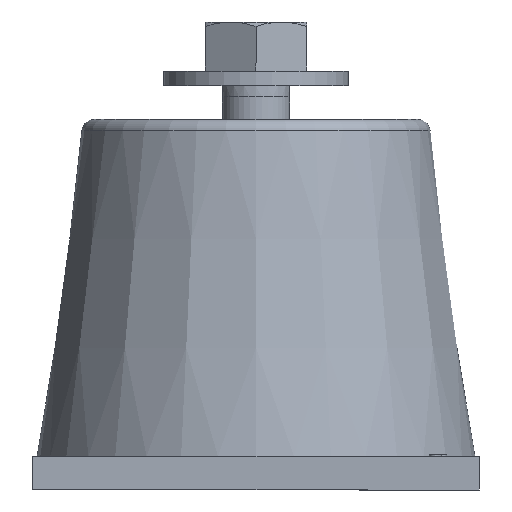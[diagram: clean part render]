
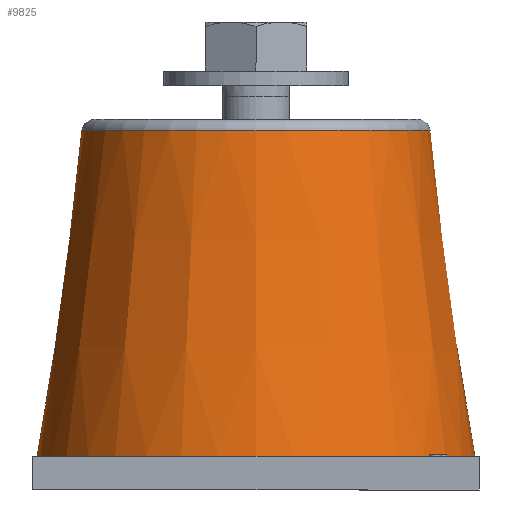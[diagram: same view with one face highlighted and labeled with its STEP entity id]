
A CAD part, front view. The second image highlights one B-rep face of the part: STEP entity #9825.
In plain terms, the highlighted conical face has half-angle 7.829 degrees and reference radius 37.051 mm.
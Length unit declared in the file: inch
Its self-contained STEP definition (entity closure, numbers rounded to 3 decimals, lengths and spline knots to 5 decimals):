
#7620=CARTESIAN_POINT('',(1.625,0.,0.25));
#7621=VERTEX_POINT('',#7620);
#7622=CARTESIAN_POINT('',(0.,0.,0.25));
#7623=DIRECTION('',(0.0,0.0,-1.0));
#7624=DIRECTION('',(1.0,0.0,0.0));
#7625=AXIS2_PLACEMENT_3D('',#7622,#7623,#7624);
#7626=CIRCLE('',#7625,1.625);
#7627=EDGE_CURVE('',#7621,#7621,#7626,.T.);
#9799=CARTESIAN_POINT('',(1.29238,0.,2.66902));
#9800=VERTEX_POINT('',#9799);
#9801=CARTESIAN_POINT('',(0.,0.,2.66902));
#9802=DIRECTION('',(0.0,0.0,-1.0));
#9803=DIRECTION('',(1.0,0.0,0.0));
#9804=AXIS2_PLACEMENT_3D('',#9801,#9802,#9803);
#9805=CIRCLE('',#9804,1.29238);
#9806=EDGE_CURVE('',#9800,#9800,#9805,.T.);
#9814=CARTESIAN_POINT('',(0.,0.,1.45951));
#9815=DIRECTION('',(0.,0.,-1.0));
#9816=DIRECTION('',(1.0,0.0,0.0));
#9817=AXIS2_PLACEMENT_3D('',#9814,#9815,#9816);
#9818=CONICAL_SURFACE('',#9817,1.45869,7.829);
#9819=ORIENTED_EDGE('',*,*,#7627,.F.);
#9820=EDGE_LOOP('',(#9819));
#9821=FACE_OUTER_BOUND('',#9820,.T.);
#9822=ORIENTED_EDGE('',*,*,#9806,.T.);
#9823=EDGE_LOOP('',(#9822));
#9824=FACE_BOUND('',#9823,.T.);
#9825=ADVANCED_FACE('',(#9821,#9824),#9818,.T.);
